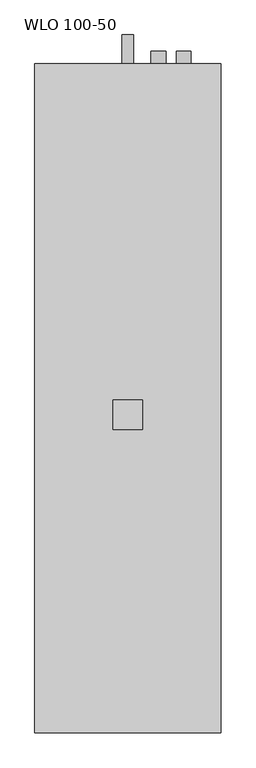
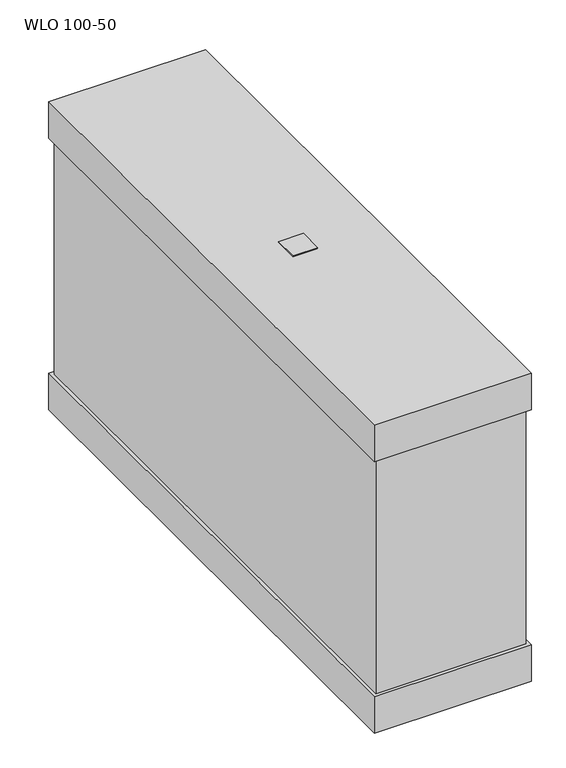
"""IFC4 building model written with IfcOpenShell, lengths in millimetres: proxy geometry, KORF_Воздухоохладитель_Водяной_WLO_Правый : WLO 100-50."""

from ifc_helpers import new_model, si_unit, point, frame, frame_2d, origin, place, context, project, spatial, polyline, circle_curve, trimmed, segment, composite_curve, outline, extrude, faceted_brep, source, transform, mapped, element, save


def wlo_100_50_09f97fd3(model_context):
    return source(origin(), model_context, "Body", "SolidModel", [
        extrude(outline(polyline([(133.0, -25.0), (133.0, 25.0), (183.0, 25.0), (183.0, -25.0), (133.0, -25.0)])), frame((0.0, 0.0, 327.5), z_axis=(0.0, 0.0, 1.0), x_axis=(1.0, 0.0, 0.0)), (0.0, 0.0, 1.0), 2.0),
        faceted_brep([(316.0, -539.5, 327.5), (316.0, -539.5, 250.0), (316.0, 595.5, 250.0), (316.0, 595.5, 327.5), (316.0, -539.5, -250.0), (316.0, -539.5, -327.5), (316.0, 595.5, -327.5), (316.0, 595.5, -250.0), (0.0, -539.5, 327.5), (0.0, 595.5, 327.5), (0.0, 595.5, 250.0), (0.0, -539.5, 250.0), (0.0, -539.5, -250.0), (0.0, 595.5, -250.0), (0.0, 595.5, -327.5), (0.0, -539.5, -327.5), (7.0, -532.5, 250.0), (309.0, -532.5, 250.0), (309.0, -500.0, 250.0), (309.0, 500.0, 250.0), (309.0, 588.5, 250.0), (7.0, 588.5, 250.0), (7.0, 500.0, 250.0), (7.0, -500.0, 250.0), (309.0, -532.5, -250.0), (7.0, -532.5, -250.0), (7.0, -500.0, -250.0), (7.0, 500.0, -250.0), (7.0, 588.5, -250.0), (309.0, 588.5, -250.0), (309.0, 500.0, -250.0), (309.0, -500.0, -250.0)], [[[0, 1, 2, 3]], [[4, 5, 6, 7]], [[8, 9, 10, 11]], [[12, 13, 14, 15]], [[1, 0, 8, 11]], [[2, 1, 11, 10], [16, 17, 18, 19, 20, 21, 22, 23]], [[3, 2, 10, 9]], [[0, 3, 9, 8]], [[5, 4, 12, 15]], [[6, 5, 15, 14]], [[7, 6, 14, 13]], [[4, 7, 13, 12], [24, 25, 26, 27, 28, 29, 30, 31]], [[17, 24, 31, 30, 29, 20, 19, 18]], [[21, 28, 27, 26, 25, 16, 23, 22]], [[24, 17, 16, 25]], [[20, 29, 28, 21]]]),
        extrude(outline(composite_curve([segment(trimmed(circle_curve(frame_2d((50.0, 253.0)), 12.5), [point((50.0, 240.5))], [point((50.0, 265.5))], False, "CARTESIAN"), True, "CONTINUOUS"), segment(trimmed(circle_curve(frame_2d((50.0, 253.0)), 12.5), [point((50.0, 265.5))], [point((50.0, 240.5))], False, "CARTESIAN"), True, "CONTINUOUS")], self_intersect=False)), frame((0.0, 588.5, 0.0), z_axis=(0.0, 1.0, 0.0), x_axis=(0.0, 0.0, 1.0)), (0.0, 0.0, 1.0), 28.0),
        extrude(outline(composite_curve([segment(trimmed(circle_curve(frame_2d((-50.0, 210.0)), 12.5), [point((-50.0, 197.5))], [point((-50.0, 222.5))], False, "CARTESIAN"), True, "CONTINUOUS"), segment(trimmed(circle_curve(frame_2d((-50.0, 210.0)), 12.5), [point((-50.0, 222.5))], [point((-50.0, 197.5))], False, "CARTESIAN"), True, "CONTINUOUS")], self_intersect=False)), frame((0.0, 588.5, 0.0), z_axis=(0.0, 1.0, 0.0), x_axis=(0.0, 0.0, 1.0)), (0.0, 0.0, 1.0), 28.0),
        extrude(outline(composite_curve([segment(trimmed(circle_curve(frame_2d((-309.5, 158.0)), 10.0), [point((-309.5, 148.0))], [point((-309.5, 168.0))], False, "CARTESIAN"), True, "CONTINUOUS"), segment(trimmed(circle_curve(frame_2d((-309.5, 158.0)), 10.0), [point((-309.5, 168.0))], [point((-309.5, 148.0))], False, "CARTESIAN"), True, "CONTINUOUS")], self_intersect=False)), frame((0.0, 595.5, 0.0), z_axis=(0.0, 1.0, 0.0), x_axis=(0.0, 0.0, 1.0)), (0.0, 0.0, 1.0), 49.0),
    ])


if __name__ == "__main__":
    model = new_model("IFC4")
    model_context = context("Model", 3, world=origin())
    ifc_project = project(units=[si_unit("LENGTHUNIT", "METRE", prefix="MILLI")], contexts=[model_context])
    site = spatial("IfcSite", under=ifc_project)
    building = spatial("IfcBuilding", under=site)
    placement = place(None, origin())
    wlo_100_50_shape = wlo_100_50_09f97fd3(model_context)
    element("IfcBuildingElementProxy", 1, Name="KORF_Воздухоохладитель_Водяной_WLO_Правый : WLO 100-50", ObjectType="KORF_Воздухоохладитель_Водяной_WLO_Правый : WLO 100-50", at=placement, inside=building, context=model_context, shape_type="MappedRepresentation", body=[
        mapped(wlo_100_50_shape, transform((0.0, 0.0, 0.0), x_axis=(1.0, 0.0, 0.0), y_axis=(0.0, 1.0, 0.0), z_axis=(0.0, 0.0, 1.0))),
    ])
    save(model, "model.ifc")
